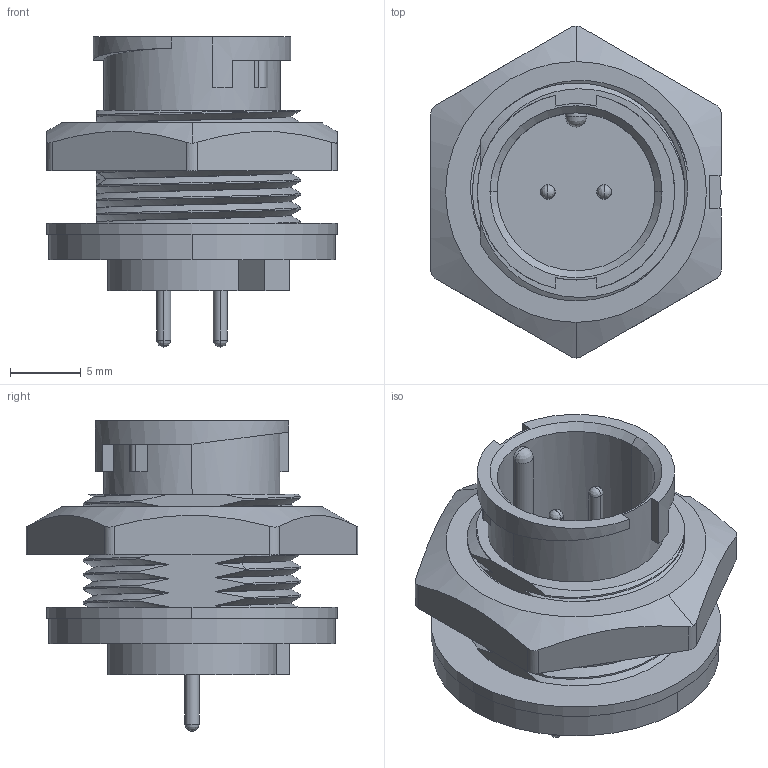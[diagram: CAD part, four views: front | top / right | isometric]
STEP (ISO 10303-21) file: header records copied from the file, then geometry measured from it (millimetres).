
FILE_DESCRIPTION (( 'STEP AP203' ), '1' );
FILE_NAME ('870-02B-113R001.STEP', '2024-06-14T18:43:07', ( '' ), ( '' ), 'SwSTEP 2.0', 'SolidWorks 2020', '' );
FILE_SCHEMA (( 'CONFIG_CONTROL_DESIGN' ));
Length unit declared in the file: millimetre
Products named in the file (1): 870-02B-113R001
Bounding box: 20.6 x 23.54 x 22 mm (x, y, z)
Volume: 2585.1 mm3; surface area: 3320.4 mm2
Topology: 2 solids, 2 shells, 180 faces, 486 edges, 306 vertices
Faces by surface type: cylinder 63, bspline 53, plane 47, cone 17
Entity records: 11683 total; most frequent: CARTESIAN_POINT 7653, ORIENTED_EDGE 936, DIRECTION 636, EDGE_CURVE 468, VERTEX_POINT 306, AXIS2_PLACEMENT_3D 246, B_SPLINE_CURVE_WITH_KNOTS 206, EDGE_LOOP 196
